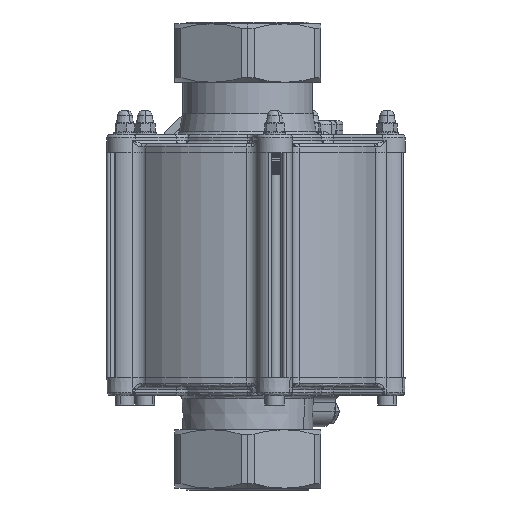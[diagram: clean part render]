
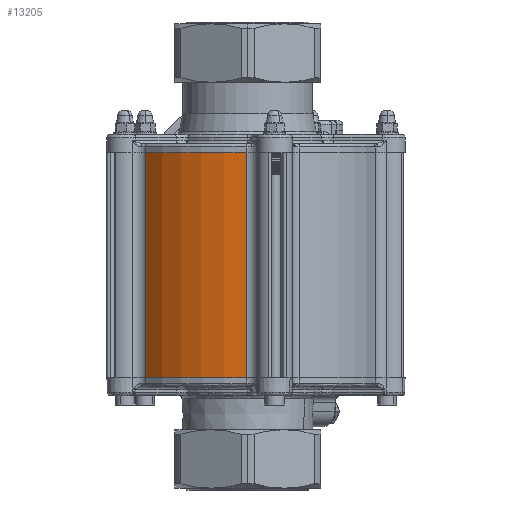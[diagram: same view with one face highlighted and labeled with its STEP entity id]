
A CAD part, front view. The second image highlights one B-rep face of the part: STEP entity #13205.
In plain terms, the highlighted cylindrical face has radius 59.8 mm (diameter 119.6 mm), a partial arc.
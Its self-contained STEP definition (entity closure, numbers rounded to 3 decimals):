
#879 = VERTEX_POINT ( 'NONE', #83488 ) ;
#1171 = EDGE_CURVE ( 'NONE', #879, #84961, #65342, .T. ) ;
#3528 = ORIENTED_EDGE ( 'NONE', *, *, #1171, .T. ) ;
#5654 = VERTEX_POINT ( 'NONE', #26257 ) ;
#5866 = CARTESIAN_POINT ( 'NONE',  ( -0.535, -59.798, 100. ) ) ;
#6316 = DIRECTION ( 'NONE',  ( 0., 0., -1. ) ) ;
#8218 = EDGE_CURVE ( 'NONE', #68349, #84961, #37724, .T. ) ;
#8335 = AXIS2_PLACEMENT_3D ( 'NONE', #29717, #82407, #37349 ) ;
#13205 = ADVANCED_FACE ( 'NONE', ( #94066 ), #67194, .T. ) ;
#16619 = ORIENTED_EDGE ( 'NONE', *, *, #8218, .F. ) ;
#19931 = EDGE_CURVE ( 'NONE', #68349, #5654, #58131, .T. ) ;
#22785 = CARTESIAN_POINT ( 'NONE',  ( 0., 0., 100. ) ) ;
#23126 = DIRECTION ( 'NONE',  ( -1., 0., 0. ) ) ;
#26257 = CARTESIAN_POINT ( 'NONE',  ( -45.438, -38.877, 0. ) ) ;
#29717 = CARTESIAN_POINT ( 'NONE',  ( 0., 0., 100. ) ) ;
#30477 = DIRECTION ( 'NONE',  ( 0., 0., -1. ) ) ;
#33301 = AXIS2_PLACEMENT_3D ( 'NONE', #45050, #97482, #52617 ) ;
#37349 = DIRECTION ( 'NONE',  ( 1., 0., 0. ) ) ;
#37724 = CIRCLE ( 'NONE', #8335, 59.8 ) ;
#45050 = CARTESIAN_POINT ( 'NONE',  ( 0., 0., 0. ) ) ;
#52617 = DIRECTION ( 'NONE',  ( 1., 0., 0. ) ) ;
#58131 = LINE ( 'NONE', #96608, #75756 ) ;
#62021 = EDGE_CURVE ( 'NONE', #5654, #879, #93092, .T. ) ;
#65061 = VECTOR ( 'NONE', #93215, 1000. ) ;
#65342 = LINE ( 'NONE', #5866, #65061 ) ;
#66887 = AXIS2_PLACEMENT_3D ( 'NONE', #22785, #30477, #23126 ) ;
#67194 = CYLINDRICAL_SURFACE ( 'NONE', #66887, 59.8 ) ;
#68349 = VERTEX_POINT ( 'NONE', #71535 ) ;
#71535 = CARTESIAN_POINT ( 'NONE',  ( -45.438, -38.877, 100. ) ) ;
#72990 = EDGE_LOOP ( 'NONE', ( #16619, #87408, #83766, #3528 ) ) ;
#73913 = CARTESIAN_POINT ( 'NONE',  ( -0.535, -59.798, 100. ) ) ;
#75756 = VECTOR ( 'NONE', #6316, 1000. ) ;
#82407 = DIRECTION ( 'NONE',  ( 0., 0., 1. ) ) ;
#83488 = CARTESIAN_POINT ( 'NONE',  ( -0.535, -59.798, 0. ) ) ;
#83766 = ORIENTED_EDGE ( 'NONE', *, *, #62021, .T. ) ;
#84961 = VERTEX_POINT ( 'NONE', #73913 ) ;
#87408 = ORIENTED_EDGE ( 'NONE', *, *, #19931, .T. ) ;
#93092 = CIRCLE ( 'NONE', #33301, 59.8 ) ;
#93215 = DIRECTION ( 'NONE',  ( 0., 0., 1. ) ) ;
#94066 = FACE_OUTER_BOUND ( 'NONE', #72990, .T. ) ;
#96608 = CARTESIAN_POINT ( 'NONE',  ( -45.438, -38.877, 100. ) ) ;
#97482 = DIRECTION ( 'NONE',  ( 0., 0., 1. ) ) ;
